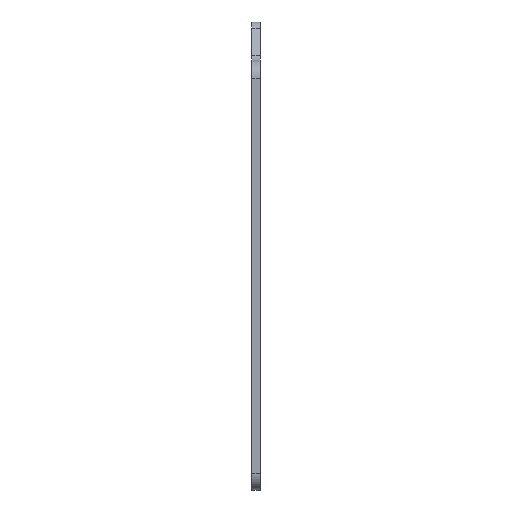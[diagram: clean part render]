
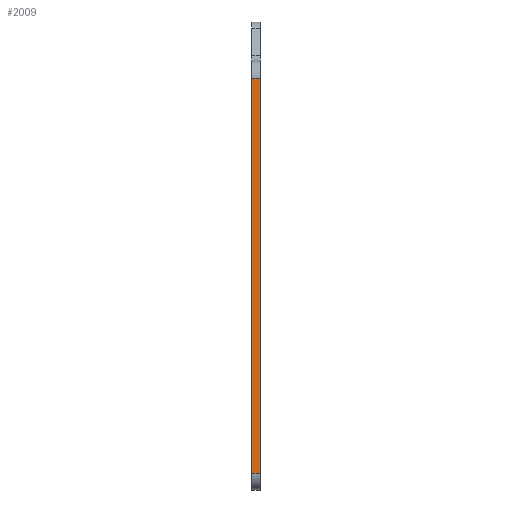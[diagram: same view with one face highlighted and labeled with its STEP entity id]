
A CAD part, left-side view. The second image highlights one B-rep face of the part: STEP entity #2009.
In plain terms, the highlighted planar face has unit normal (-1, 0, 0).
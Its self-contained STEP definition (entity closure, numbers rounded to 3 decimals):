
#74=PLANE('',#2162);
#143=FACE_OUTER_BOUND('',#269,.T.);
#269=EDGE_LOOP('',(#1515,#1516,#1517,#1518));
#392=LINE('',#2868,#613);
#461=LINE('',#3077,#682);
#462=LINE('',#3080,#683);
#463=LINE('',#3081,#684);
#613=VECTOR('',#2304,10.);
#682=VECTOR('',#2459,10.);
#683=VECTOR('',#2462,10.);
#684=VECTOR('',#2463,10.);
#906=VERTEX_POINT('',#2865);
#907=VERTEX_POINT('',#2867);
#1003=VERTEX_POINT('',#3073);
#1005=VERTEX_POINT('',#3079);
#1102=EDGE_CURVE('',#906,#907,#392,.T.);
#1207=EDGE_CURVE('',#907,#1003,#461,.T.);
#1208=EDGE_CURVE('',#1005,#906,#462,.T.);
#1209=EDGE_CURVE('',#1003,#1005,#463,.T.);
#1515=ORIENTED_EDGE('',*,*,#1207,.F.);
#1516=ORIENTED_EDGE('',*,*,#1102,.F.);
#1517=ORIENTED_EDGE('',*,*,#1208,.F.);
#1518=ORIENTED_EDGE('',*,*,#1209,.F.);
#2009=ADVANCED_FACE('',(#143),#74,.T.);
#2162=AXIS2_PLACEMENT_3D('',#3078,#2460,#2461);
#2304=DIRECTION('',(0.,0.,-1.));
#2459=DIRECTION('',(0.,1.,0.));
#2460=DIRECTION('center_axis',(-1.,0.,0.));
#2461=DIRECTION('ref_axis',(0.,0.,1.));
#2462=DIRECTION('',(0.,-1.,0.));
#2463=DIRECTION('',(0.,0.,1.));
#2865=CARTESIAN_POINT('',(59.494,0.,21.41));
#2867=CARTESIAN_POINT('',(59.494,0.,-49.09));
#2868=CARTESIAN_POINT('',(59.494,0.,24.41));
#3073=CARTESIAN_POINT('',(59.494,1.5,-49.09));
#3077=CARTESIAN_POINT('',(59.494,0.,-49.09));
#3078=CARTESIAN_POINT('Origin',(59.494,0.,-52.09));
#3079=CARTESIAN_POINT('',(59.494,1.5,21.41));
#3080=CARTESIAN_POINT('',(59.494,0.,21.41));
#3081=CARTESIAN_POINT('',(59.494,1.5,24.41));
